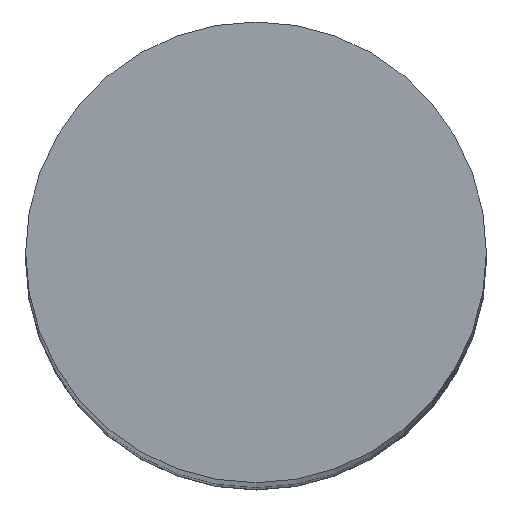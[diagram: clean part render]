
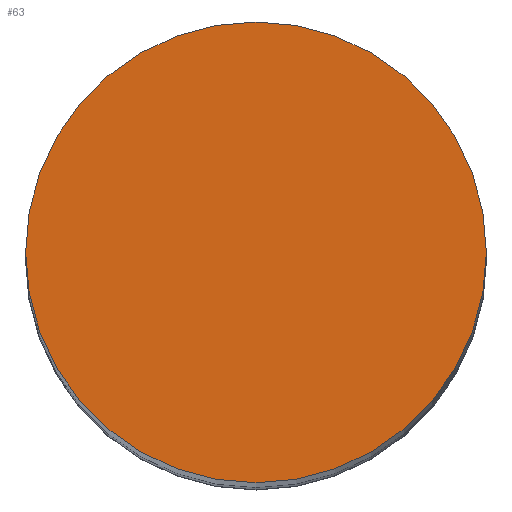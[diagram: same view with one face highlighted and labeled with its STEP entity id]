
A CAD part, top view. The second image highlights one B-rep face of the part: STEP entity #63.
In plain terms, the highlighted planar face has unit normal (0, 0, 1).
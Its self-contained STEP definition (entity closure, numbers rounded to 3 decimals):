
#63=ADVANCED_FACE('',(#122),#123,.T.);
#122=FACE_OUTER_BOUND('',#174,.T.);
#123=PLANE('',#175);
#174=EDGE_LOOP('',(#277,#278));
#175=AXIS2_PLACEMENT_3D('',#279,#280,#281);
#277=ORIENTED_EDGE('',*,*,#328,.T.);
#278=ORIENTED_EDGE('',*,*,#301,.T.);
#279=CARTESIAN_POINT('',(0.0,0.0,0.0));
#280=DIRECTION('',(0.0,0.0,1.0));
#281=DIRECTION('',(1.0,0.0,0.0));
#301=EDGE_CURVE('',#348,#345,#349,.T.);
#328=EDGE_CURVE('',#345,#348,#385,.T.);
#345=VERTEX_POINT('',#402);
#348=VERTEX_POINT('',#406);
#349=CIRCLE('',#407,10.0);
#385=CIRCLE('',#448,10.0);
#402=CARTESIAN_POINT('',(-10.0,0.0,0.0));
#406=CARTESIAN_POINT('',(10.0,0.,0.0));
#407=AXIS2_PLACEMENT_3D('',#471,#472,#473);
#448=AXIS2_PLACEMENT_3D('',#515,#516,#517);
#471=CARTESIAN_POINT('',(0.0,0.0,0.0));
#472=DIRECTION('',(0.0,0.0,1.0));
#473=DIRECTION('',(-1.0,0.0,0.0));
#515=CARTESIAN_POINT('',(0.0,0.0,0.0));
#516=DIRECTION('',(0.0,0.0,1.0));
#517=DIRECTION('',(-1.0,0.0,0.0));
